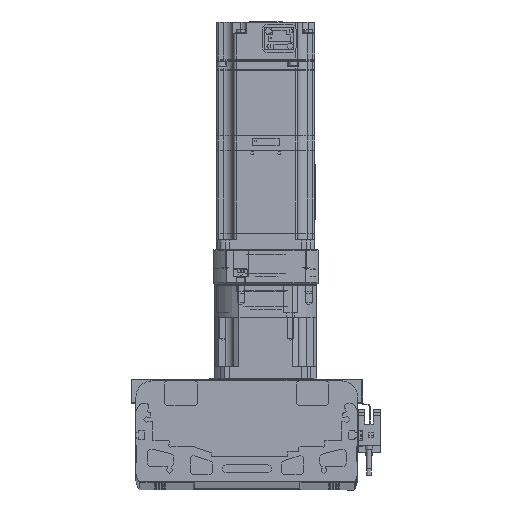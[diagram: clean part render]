
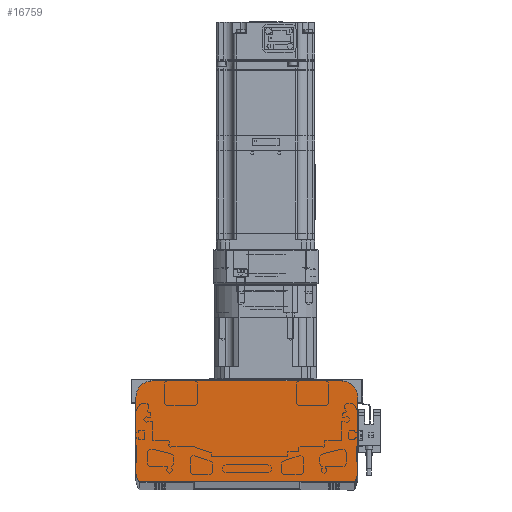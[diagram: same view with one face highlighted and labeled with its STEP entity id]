
A CAD part, top view. The second image highlights one B-rep face of the part: STEP entity #16759.
In plain terms, the highlighted planar face has unit normal (0, 0, 1).
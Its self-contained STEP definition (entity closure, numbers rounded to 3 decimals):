
#298 = CARTESIAN_POINT ( 'NONE',  ( 270.33, 189.083, 2530. ) ) ;
#1449 = VERTEX_POINT ( 'NONE', #67355 ) ;
#4739 = VERTEX_POINT ( 'NONE', #37633 ) ;
#5192 = AXIS2_PLACEMENT_3D ( 'NONE', #76204, #65059, #114176 ) ;
#5639 = DIRECTION ( 'NONE',  ( -1., 0., 0. ) ) ;
#5651 = ORIENTED_EDGE ( 'NONE', *, *, #65344, .T. ) ;
#5776 = CIRCLE ( 'NONE', #122849, 5. ) ;
#6554 = DIRECTION ( 'NONE',  ( 0.242, -0.97, 0. ) ) ;
#7591 = LINE ( 'NONE', #26594, #45489 ) ;
#8583 = CARTESIAN_POINT ( 'NONE',  ( 395.33, 189.083, 2530. ) ) ;
#9999 = EDGE_CURVE ( 'NONE', #35837, #36779, #58908, .T. ) ;
#16273 = AXIS2_PLACEMENT_3D ( 'NONE', #94134, #96095, #65312 ) ;
#16759 = ADVANCED_FACE ( 'NONE', ( #107376 ), #26907, .T. ) ;
#18669 = DIRECTION ( 'NONE',  ( 0., 1., 0. ) ) ;
#21877 = DIRECTION ( 'NONE',  ( 0., 0., 1. ) ) ;
#22523 = DIRECTION ( 'NONE',  ( 1., 0., 0. ) ) ;
#26046 = DIRECTION ( 'NONE',  ( 1., 0., 0. ) ) ;
#26594 = CARTESIAN_POINT ( 'NONE',  ( 395.33, 199.083, 2530. ) ) ;
#26907 = PLANE ( 'NONE',  #41153 ) ;
#27738 = DIRECTION ( 'NONE',  ( 0.242, 0.97, 0. ) ) ;
#28224 = DIRECTION ( 'NONE',  ( 0., 0., 1. ) ) ;
#30211 = CIRCLE ( 'NONE', #63638, 0.5 ) ;
#31618 = ORIENTED_EDGE ( 'NONE', *, *, #72328, .T. ) ;
#35175 = EDGE_CURVE ( 'NONE', #75503, #103998, #7591, .T. ) ;
#35617 = AXIS2_PLACEMENT_3D ( 'NONE', #108690, #28224, #59608 ) ;
#35837 = VERTEX_POINT ( 'NONE', #71752 ) ;
#36266 = CARTESIAN_POINT ( 'NONE',  ( 404.507, 139.723, 2530. ) ) ;
#36779 = VERTEX_POINT ( 'NONE', #40387 ) ;
#37633 = CARTESIAN_POINT ( 'NONE',  ( 405.33, 143.083, 2530. ) ) ;
#38608 = CARTESIAN_POINT ( 'NONE',  ( 405.315, 142.962, 2530. ) ) ;
#38948 = CARTESIAN_POINT ( 'NONE',  ( 405.33, 143.083, 2530. ) ) ;
#40110 = CIRCLE ( 'NONE', #77710, 10. ) ;
#40387 = CARTESIAN_POINT ( 'NONE',  ( 403.368, 137.583, 2530. ) ) ;
#41153 = AXIS2_PLACEMENT_3D ( 'NONE', #76661, #125738, #108644 ) ;
#43906 = CARTESIAN_POINT ( 'NONE',  ( 395.33, 199.083, 2530. ) ) ;
#44645 = CARTESIAN_POINT ( 'NONE',  ( 270.345, 142.962, 2530. ) ) ;
#44914 = CIRCLE ( 'NONE', #5192, 10. ) ;
#45489 = VECTOR ( 'NONE', #5639, 1000. ) ;
#47232 = VECTOR ( 'NONE', #27738, 1000. ) ;
#48963 = CARTESIAN_POINT ( 'NONE',  ( 271.152, 139.723, 2530. ) ) ;
#51663 = VERTEX_POINT ( 'NONE', #115539 ) ;
#53616 = VECTOR ( 'NONE', #118852, 1000. ) ;
#55011 = CARTESIAN_POINT ( 'NONE',  ( 270.345, 142.962, 2530. ) ) ;
#55796 = EDGE_CURVE ( 'NONE', #4739, #1449, #128611, .T. ) ;
#57839 = LINE ( 'NONE', #36266, #47232 ) ;
#58908 = LINE ( 'NONE', #119773, #118100 ) ;
#59608 = DIRECTION ( 'NONE',  ( 1., 0., 0. ) ) ;
#63638 = AXIS2_PLACEMENT_3D ( 'NONE', #124593, #21877, #22523 ) ;
#64657 = DIRECTION ( 'NONE',  ( 0., 0., 1. ) ) ;
#65059 = DIRECTION ( 'NONE',  ( 0., 0., 1. ) ) ;
#65312 = DIRECTION ( 'NONE',  ( 1., 0., 0. ) ) ;
#65344 = EDGE_CURVE ( 'NONE', #103998, #51663, #44914, .T. ) ;
#65966 = ORIENTED_EDGE ( 'NONE', *, *, #118547, .T. ) ;
#67173 = EDGE_CURVE ( 'NONE', #1449, #75503, #40110, .T. ) ;
#67177 = LINE ( 'NONE', #298, #53616 ) ;
#67355 = CARTESIAN_POINT ( 'NONE',  ( 405.33, 189.083, 2530. ) ) ;
#70340 = CARTESIAN_POINT ( 'NONE',  ( 280.33, 199.083, 2530. ) ) ;
#71752 = CARTESIAN_POINT ( 'NONE',  ( 272.291, 137.583, 2530. ) ) ;
#72328 = EDGE_CURVE ( 'NONE', #108491, #4739, #30211, .T. ) ;
#74730 = CIRCLE ( 'NONE', #16273, 5. ) ;
#75503 = VERTEX_POINT ( 'NONE', #43906 ) ;
#76204 = CARTESIAN_POINT ( 'NONE',  ( 280.33, 189.083, 2530. ) ) ;
#76661 = CARTESIAN_POINT ( 'NONE',  ( 276.004, 140.933, 2530. ) ) ;
#77710 = AXIS2_PLACEMENT_3D ( 'NONE', #8583, #117913, #128370 ) ;
#79300 = ORIENTED_EDGE ( 'NONE', *, *, #120527, .T. ) ;
#81387 = VECTOR ( 'NONE', #18669, 1000. ) ;
#81693 = ORIENTED_EDGE ( 'NONE', *, *, #67173, .T. ) ;
#82589 = ORIENTED_EDGE ( 'NONE', *, *, #107359, .T. ) ;
#84315 = CARTESIAN_POINT ( 'NONE',  ( 276.004, 140.933, 2530. ) ) ;
#84629 = EDGE_CURVE ( 'NONE', #123008, #123103, #129606, .T. ) ;
#84882 = ORIENTED_EDGE ( 'NONE', *, *, #55796, .T. ) ;
#87068 = LINE ( 'NONE', #55011, #93943 ) ;
#89031 = DIRECTION ( 'NONE',  ( 1., 0., 0. ) ) ;
#93943 = VECTOR ( 'NONE', #6554, 1000. ) ;
#94134 = CARTESIAN_POINT ( 'NONE',  ( 399.656, 140.933, 2530. ) ) ;
#94154 = VERTEX_POINT ( 'NONE', #125486 ) ;
#96095 = DIRECTION ( 'NONE',  ( 0., 0., 1. ) ) ;
#97091 = ORIENTED_EDGE ( 'NONE', *, *, #100687, .T. ) ;
#100687 = EDGE_CURVE ( 'NONE', #94154, #108491, #57839, .T. ) ;
#102028 = ORIENTED_EDGE ( 'NONE', *, *, #120547, .T. ) ;
#103998 = VERTEX_POINT ( 'NONE', #70340 ) ;
#106960 = ORIENTED_EDGE ( 'NONE', *, *, #84629, .T. ) ;
#107359 = EDGE_CURVE ( 'NONE', #123103, #128336, #87068, .T. ) ;
#107376 = FACE_OUTER_BOUND ( 'NONE', #125958, .T. ) ;
#108491 = VERTEX_POINT ( 'NONE', #38608 ) ;
#108644 = DIRECTION ( 'NONE',  ( 1., 0., 0. ) ) ;
#108690 = CARTESIAN_POINT ( 'NONE',  ( 270.83, 143.083, 2530. ) ) ;
#109271 = ORIENTED_EDGE ( 'NONE', *, *, #35175, .T. ) ;
#112747 = CARTESIAN_POINT ( 'NONE',  ( 270.33, 143.083, 2530. ) ) ;
#114176 = DIRECTION ( 'NONE',  ( 1., 0., 0. ) ) ;
#114205 = ORIENTED_EDGE ( 'NONE', *, *, #9999, .T. ) ;
#115539 = CARTESIAN_POINT ( 'NONE',  ( 270.33, 189.083, 2530. ) ) ;
#117913 = DIRECTION ( 'NONE',  ( 0., 0., 1. ) ) ;
#118100 = VECTOR ( 'NONE', #89031, 1000. ) ;
#118547 = EDGE_CURVE ( 'NONE', #51663, #123008, #67177, .T. ) ;
#118852 = DIRECTION ( 'NONE',  ( 0., -1., 0. ) ) ;
#119773 = CARTESIAN_POINT ( 'NONE',  ( 272.291, 137.583, 2530. ) ) ;
#120527 = EDGE_CURVE ( 'NONE', #36779, #94154, #74730, .T. ) ;
#120547 = EDGE_CURVE ( 'NONE', #128336, #35837, #5776, .T. ) ;
#122849 = AXIS2_PLACEMENT_3D ( 'NONE', #84315, #64657, #26046 ) ;
#123008 = VERTEX_POINT ( 'NONE', #112747 ) ;
#123103 = VERTEX_POINT ( 'NONE', #44645 ) ;
#124593 = CARTESIAN_POINT ( 'NONE',  ( 404.83, 143.083, 2530. ) ) ;
#125486 = CARTESIAN_POINT ( 'NONE',  ( 404.507, 139.723, 2530. ) ) ;
#125738 = DIRECTION ( 'NONE',  ( 0., 0., 1. ) ) ;
#125958 = EDGE_LOOP ( 'NONE', ( #102028, #114205, #79300, #97091, #31618, #84882, #81693, #109271, #5651, #65966, #106960, #82589 ) ) ;
#128336 = VERTEX_POINT ( 'NONE', #48963 ) ;
#128370 = DIRECTION ( 'NONE',  ( 1., 0., 0. ) ) ;
#128611 = LINE ( 'NONE', #38948, #81387 ) ;
#129606 = CIRCLE ( 'NONE', #35617, 0.5 ) ;
